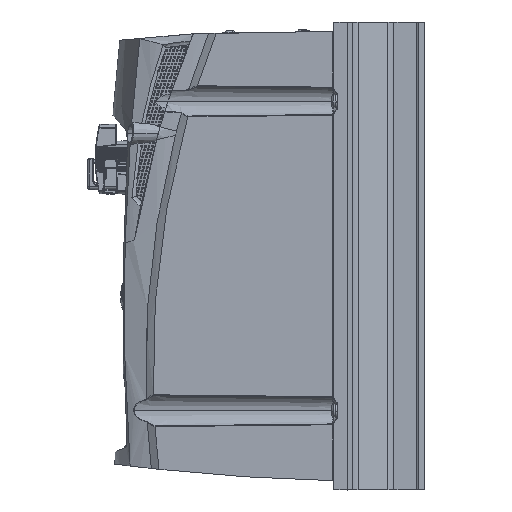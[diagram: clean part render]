
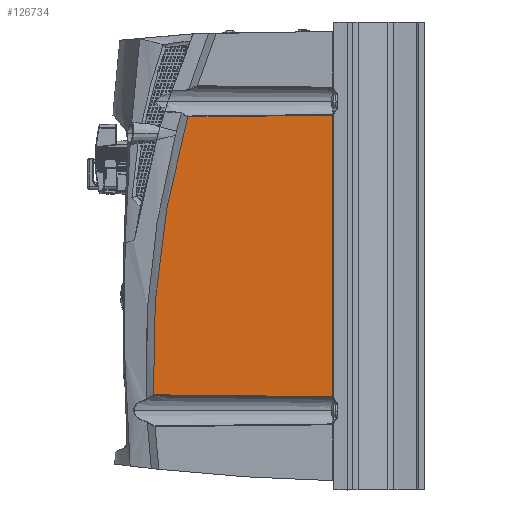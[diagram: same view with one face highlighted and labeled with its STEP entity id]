
A CAD part, left-side view. The second image highlights one B-rep face of the part: STEP entity #126734.
In plain terms, the highlighted planar face has unit normal (-1, 0.018, 0).
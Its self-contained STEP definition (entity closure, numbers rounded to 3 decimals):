
#3960 = CARTESIAN_POINT ( 'NONE',  ( -84.001, -0.087, -128.5 ) ) ;
#4868 = CARTESIAN_POINT ( 'NONE',  ( -82.364, 93.664, -76.363 ) ) ;
#5609 = CARTESIAN_POINT ( 'NONE',  ( -82.726, 72.915, -76.573 ) ) ;
#6371 = CARTESIAN_POINT ( 'NONE',  ( -82.941, 60.647, -76.698 ) ) ;
#13633 = CARTESIAN_POINT ( 'NONE',  ( -82.189, 103.717, -36.036 ) ) ;
#13787 = PLANE ( 'NONE',  #146904 ) ;
#16923 = CARTESIAN_POINT ( 'NONE',  ( -83.048, 54.512, -76.762 ) ) ;
#17541 = CARTESIAN_POINT ( 'NONE',  ( -82.183, 104.04, -76.249 ) ) ;
#17858 = B_SPLINE_CURVE_WITH_KNOTS ( 'NONE', 3,
 ( #120226, #53011, #17541, #64342 ),
 .UNSPECIFIED., .F., .F.,
 ( 4, 4 ),
 ( 0., 0. ),
 .UNSPECIFIED. ) ;
#19621 = EDGE_CURVE ( 'NONE', #20775, #123479, #135139, .T. ) ;
#20775 = VERTEX_POINT ( 'NONE', #144692 ) ;
#23491 = CARTESIAN_POINT ( 'NONE',  ( -82.398, 91.734, 51.558 ) ) ;
#25104 = CARTESIAN_POINT ( 'NONE',  ( -83.903, 5.491, 77.289 ) ) ;
#27681 = CARTESIAN_POINT ( 'NONE',  ( -83.903, 5.491, 77.289 ) ) ;
#30515 = CARTESIAN_POINT ( 'NONE',  ( -83.903, 5.491, -77.289 ) ) ;
#32648 = ORIENTED_EDGE ( 'NONE', *, *, #140318, .T. ) ;
#35051 = ORIENTED_EDGE ( 'NONE', *, *, #19621, .T. ) ;
#35562 = CARTESIAN_POINT ( 'NONE',  ( -82.213, 102.33, -15.167 ) ) ;
#36299 = CARTESIAN_POINT ( 'NONE',  ( -82.513, 85.127, 76.449 ) ) ;
#37942 = DIRECTION ( 'NONE',  ( 0.017, 1., 0. ) ) ;
#38924 = VERTEX_POINT ( 'NONE', #94346 ) ;
#39577 = CARTESIAN_POINT ( 'NONE',  ( -82.545, 83.29, -76.467 ) ) ;
#40414 = B_SPLINE_CURVE_WITH_KNOTS ( 'NONE', 3,
 ( #25104, #118675, #127018, #141340 ),
 .UNSPECIFIED., .F., .F.,
 ( 4, 4 ),
 ( 0., 0.08 ),
 .UNSPECIFIED. ) ;
#45090 = VERTEX_POINT ( 'NONE', #124915 ) ;
#50176 = CARTESIAN_POINT ( 'NONE',  ( -83.323, 38.73, -76.928 ) ) ;
#51115 = EDGE_LOOP ( 'NONE', ( #51149, #35051, #143631, #32648, #138829 ) ) ;
#51149 = ORIENTED_EDGE ( 'NONE', *, *, #90597, .T. ) ;
#52308 = EDGE_CURVE ( 'NONE', #123479, #66937, #40414, .T. ) ;
#53011 = CARTESIAN_POINT ( 'NONE',  ( -82.183, 104.041, -76.235 ) ) ;
#54358 = CARTESIAN_POINT ( 'NONE',  ( -83.903, 5.491, -128.5 ) ) ;
#56692 = CARTESIAN_POINT ( 'NONE',  ( -82.183, 104.042, -76.222 ) ) ;
#58174 = CARTESIAN_POINT ( 'NONE',  ( -82.177, 104.374, -50.498 ) ) ;
#59379 = DIRECTION ( 'NONE',  ( 0., 0., 1. ) ) ;
#59682 = CARTESIAN_POINT ( 'NONE',  ( -82.451, 88.674, 64.063 ) ) ;
#64342 = CARTESIAN_POINT ( 'NONE',  ( -82.183, 104.038, -76.262 ) ) ;
#66937 = VERTEX_POINT ( 'NONE', #120874 ) ;
#70238 = CARTESIAN_POINT ( 'NONE',  ( -82.19, 103.636, -34.427 ) ) ;
#70994 = CARTESIAN_POINT ( 'NONE',  ( -82.198, 103.169, -26.395 ) ) ;
#80837 = CARTESIAN_POINT ( 'NONE',  ( -82.259, 99.717, 7.21 ) ) ;
#84861 = CARTESIAN_POINT ( 'NONE',  ( -83.517, 27.65, -77.046 ) ) ;
#85602 = CARTESIAN_POINT ( 'NONE',  ( -83.14, 49.251, -76.817 ) ) ;
#90597 = EDGE_CURVE ( 'NONE', #45090, #20775, #120241, .T. ) ;
#91413 = CARTESIAN_POINT ( 'NONE',  ( -82.3, 97.336, 23.125 ) ) ;
#92910 = CARTESIAN_POINT ( 'NONE',  ( -82.331, 95.592, 32.623 ) ) ;
#94346 = CARTESIAN_POINT ( 'NONE',  ( -82.183, 104.042, -76.222 ) ) ;
#106591 = DIRECTION ( 'NONE',  ( -1., 0.017, 0. ) ) ;
#107509 = CARTESIAN_POINT ( 'NONE',  ( -82.183, 104.038, -76.262 ) ) ;
#108781 = EDGE_CURVE ( 'NONE', #38924, #45090, #17858, .T. ) ;
#110805 = VECTOR ( 'NONE', #59379, 1000. ) ;
#114057 = CARTESIAN_POINT ( 'NONE',  ( -82.176, 104.458, -63.358 ) ) ;
#116435 = FACE_OUTER_BOUND ( 'NONE', #51115, .T. ) ;
#118675 = CARTESIAN_POINT ( 'NONE',  ( -83.44, 32.036, 76.994 ) ) ;
#120226 = CARTESIAN_POINT ( 'NONE',  ( -82.183, 104.042, -76.222 ) ) ;
#120241 = B_SPLINE_CURVE_WITH_KNOTS ( 'NONE', 3,
 ( #107509, #4868, #39577, #5609, #132414, #6371, #16923, #85602, #121842, #50176, #84861, #131656, #30515 ),
 .UNSPECIFIED., .F., .F.,
 ( 4, 3, 3, 3, 4 ),
 ( 0., 0.031, 0.05, 0.065, 0.099 ),
 .UNSPECIFIED. ) ;
#120874 = CARTESIAN_POINT ( 'NONE',  ( -82.513, 85.127, 76.449 ) ) ;
#121842 = CARTESIAN_POINT ( 'NONE',  ( -83.231, 43.99, -76.872 ) ) ;
#123479 = VERTEX_POINT ( 'NONE', #27681 ) ;
#124915 = CARTESIAN_POINT ( 'NONE',  ( -82.183, 104.038, -76.262 ) ) ;
#126734 = ADVANCED_FACE ( 'NONE', ( #116435 ), #13787, .T. ) ;
#127018 = CARTESIAN_POINT ( 'NONE',  ( -82.977, 58.582, 76.715 ) ) ;
#128356 = CARTESIAN_POINT ( 'NONE',  ( -82.231, 101.331, -5.567 ) ) ;
#131656 = CARTESIAN_POINT ( 'NONE',  ( -83.71, 16.571, -77.166 ) ) ;
#132414 = CARTESIAN_POINT ( 'NONE',  ( -82.834, 66.781, -76.635 ) ) ;
#132777 = B_SPLINE_CURVE_WITH_KNOTS ( 'NONE', 3,
 ( #36299, #59682, #23491, #92910, #91413, #148817, #80837, #137463, #128356, #35562, #70994, #140451, #70238, #13633, #58174, #114057, #56692 ),
 .UNSPECIFIED., .F., .F.,
 ( 4, 2, 1, 2, 2, 1, 1, 2, 2, 4 ),
 ( 0., 0.25, 0.375, 0.437, 0.5, 0.625, 0.688, 0.719, 0.75, 1. ),
 .UNSPECIFIED. ) ;
#135139 = LINE ( 'NONE', #54358, #110805 ) ;
#137463 = CARTESIAN_POINT ( 'NONE',  ( -82.251, 100.144, 4.017 ) ) ;
#138829 = ORIENTED_EDGE ( 'NONE', *, *, #108781, .T. ) ;
#140318 = EDGE_CURVE ( 'NONE', #66937, #38924, #132777, .T. ) ;
#140451 = CARTESIAN_POINT ( 'NONE',  ( -82.193, 103.459, -31.214 ) ) ;
#141340 = CARTESIAN_POINT ( 'NONE',  ( -82.513, 85.127, 76.449 ) ) ;
#143631 = ORIENTED_EDGE ( 'NONE', *, *, #52308, .T. ) ;
#144692 = CARTESIAN_POINT ( 'NONE',  ( -83.903, 5.491, -77.289 ) ) ;
#146904 = AXIS2_PLACEMENT_3D ( 'NONE', #3960, #106591, #37942 ) ;
#148817 = CARTESIAN_POINT ( 'NONE',  ( -82.275, 98.802, 13.582 ) ) ;
